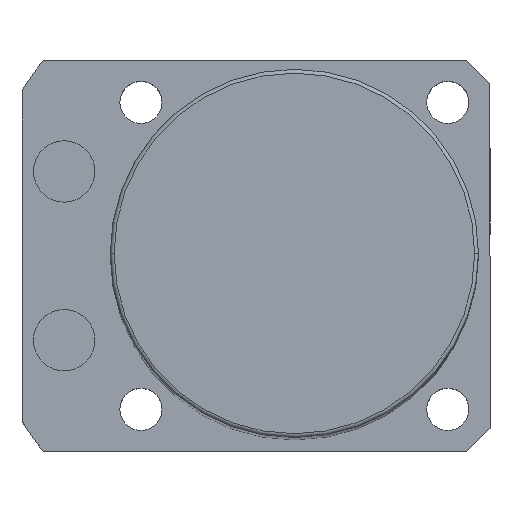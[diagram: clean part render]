
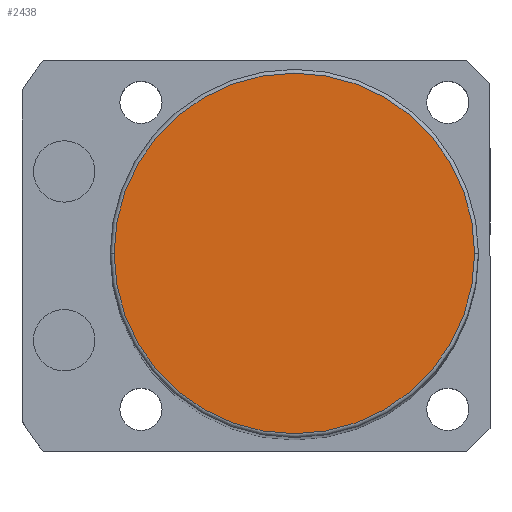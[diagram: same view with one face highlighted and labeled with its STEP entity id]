
A CAD part, top view. The second image highlights one B-rep face of the part: STEP entity #2438.
In plain terms, the highlighted planar face has unit normal (0, 0, 1).
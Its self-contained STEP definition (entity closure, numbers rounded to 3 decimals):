
#875 = FACE_OUTER_BOUND ( 'NONE', #1699, .T. ) ;
#1014 = AXIS2_PLACEMENT_3D ( 'NONE', #6502, #3924, #5982 ) ;
#1245 = VERTEX_POINT ( 'NONE', #4819 ) ;
#1699 = EDGE_LOOP ( 'NONE', ( #2967, #2314 ) ) ;
#2314 = ORIENTED_EDGE ( 'NONE', *, *, #6329, .T. ) ;
#2438 = ADVANCED_FACE ( 'NONE', ( #875 ), #6431, .T. ) ;
#2543 = CARTESIAN_POINT ( 'NONE',  ( 0., 0., 191. ) ) ;
#2847 = DIRECTION ( 'NONE',  ( 1., 0., 0. ) ) ;
#2967 = ORIENTED_EDGE ( 'NONE', *, *, #3054, .T. ) ;
#2981 = DIRECTION ( 'NONE',  ( 0., 0., 1. ) ) ;
#3054 = EDGE_CURVE ( 'NONE', #1245, #3685, #4567, .T. ) ;
#3337 = CARTESIAN_POINT ( 'NONE',  ( 0., 0., 191. ) ) ;
#3685 = VERTEX_POINT ( 'NONE', #5419 ) ;
#3924 = DIRECTION ( 'NONE',  ( 0., 0., 1. ) ) ;
#3981 = CIRCLE ( 'NONE', #4797, 23.5 ) ;
#4034 = DIRECTION ( 'NONE',  ( 1., 0., 0. ) ) ;
#4567 = CIRCLE ( 'NONE', #5187, 23.5 ) ;
#4797 = AXIS2_PLACEMENT_3D ( 'NONE', #3337, #5400, #2847 ) ;
#4819 = CARTESIAN_POINT ( 'NONE',  ( 23.5, 0., 191. ) ) ;
#5187 = AXIS2_PLACEMENT_3D ( 'NONE', #2543, #2981, #4034 ) ;
#5400 = DIRECTION ( 'NONE',  ( 0., 0., 1. ) ) ;
#5419 = CARTESIAN_POINT ( 'NONE',  ( -23.5, 0., 191. ) ) ;
#5982 = DIRECTION ( 'NONE',  ( 1., 0., 0. ) ) ;
#6329 = EDGE_CURVE ( 'NONE', #3685, #1245, #3981, .T. ) ;
#6431 = PLANE ( 'NONE',  #1014 ) ;
#6502 = CARTESIAN_POINT ( 'NONE',  ( 0., 0., 191. ) ) ;
